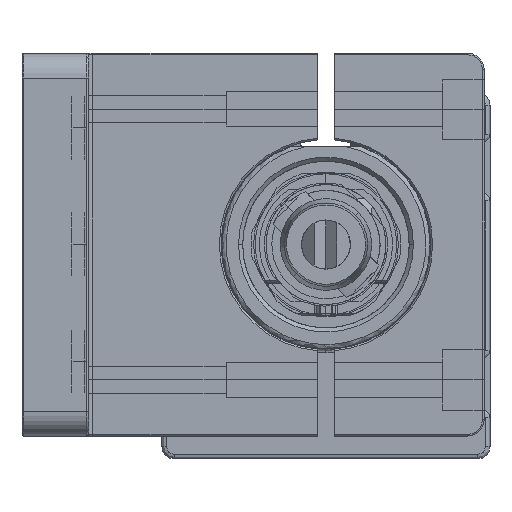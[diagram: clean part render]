
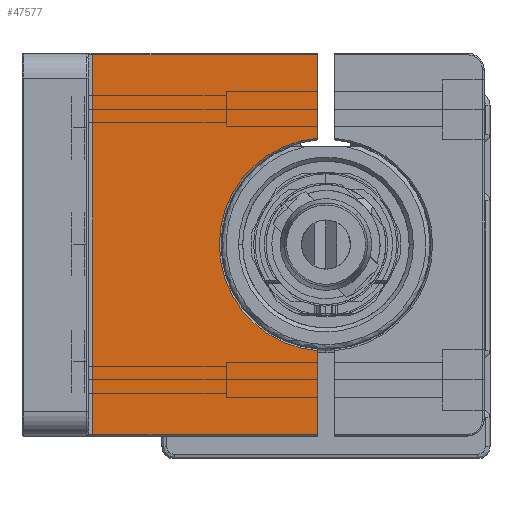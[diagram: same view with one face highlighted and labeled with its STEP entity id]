
A CAD part, front view. The second image highlights one B-rep face of the part: STEP entity #47577.
In plain terms, the highlighted planar face has unit normal (0, -1, 0) as drawn and (0, 0, 1) by its records, which use the part's own axes.
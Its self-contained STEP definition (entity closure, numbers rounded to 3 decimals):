
#1406 = CARTESIAN_POINT ( 'NONE',  ( 35.761, 34., 8. ) ) ;
#4065 = DIRECTION ( 'NONE',  ( 1., 0., 0. ) ) ;
#5437 = ORIENTED_EDGE ( 'NONE', *, *, #32238, .T. ) ;
#6256 = EDGE_CURVE ( 'NONE', #7304, #44194, #48827, .T. ) ;
#7304 = VERTEX_POINT ( 'NONE', #51587 ) ;
#7699 = CARTESIAN_POINT ( 'NONE',  ( 45.8, 34., 8. ) ) ;
#8242 = AXIS2_PLACEMENT_3D ( 'NONE', #47740, #30300, #51110 ) ;
#8947 = EDGE_CURVE ( 'NONE', #20039, #32472, #54614, .T. ) ;
#10816 = AXIS2_PLACEMENT_3D ( 'NONE', #35023, #26341, #26086 ) ;
#11124 = ORIENTED_EDGE ( 'NONE', *, *, #8947, .F. ) ;
#12117 = CARTESIAN_POINT ( 'NONE',  ( 45.8, 34., 8. ) ) ;
#12450 = CARTESIAN_POINT ( 'NONE',  ( 0., 7., 8. ) ) ;
#13073 = PLANE ( 'NONE',  #8242 ) ;
#14718 = VECTOR ( 'NONE', #16621, 1000. ) ;
#16621 = DIRECTION ( 'NONE',  ( 1., 0., 0. ) ) ;
#17120 = CARTESIAN_POINT ( 'NONE',  ( 45.8, 34., 8. ) ) ;
#18285 = VERTEX_POINT ( 'NONE', #36572 ) ;
#18725 = EDGE_CURVE ( 'NONE', #7304, #18285, #37560, .T. ) ;
#19600 = VECTOR ( 'NONE', #4065, 1000. ) ;
#20039 = VERTEX_POINT ( 'NONE', #1406 ) ;
#23382 = DIRECTION ( 'NONE',  ( 0., 1., 0. ) ) ;
#26086 = DIRECTION ( 'NONE',  ( 1., 0., 0. ) ) ;
#26341 = DIRECTION ( 'NONE',  ( 0., 0., -1. ) ) ;
#26384 = CARTESIAN_POINT ( 'NONE',  ( 0.2, 7., 8. ) ) ;
#26662 = VECTOR ( 'NONE', #23382, 1000. ) ;
#27300 = ORIENTED_EDGE ( 'NONE', *, *, #6256, .T. ) ;
#27808 = LINE ( 'NONE', #40453, #26662 ) ;
#30300 = DIRECTION ( 'NONE',  ( 0., 0., 1. ) ) ;
#30858 = VECTOR ( 'NONE', #52444, 1000. ) ;
#32238 = EDGE_CURVE ( 'NONE', #44194, #47983, #37878, .T. ) ;
#32472 = VERTEX_POINT ( 'NONE', #17120 ) ;
#33296 = DIRECTION ( 'NONE',  ( 1., 0., 0. ) ) ;
#34699 = ORIENTED_EDGE ( 'NONE', *, *, #18725, .F. ) ;
#35023 = CARTESIAN_POINT ( 'NONE',  ( 23., 35., 8. ) ) ;
#36572 = CARTESIAN_POINT ( 'NONE',  ( 10.239, 34., 8. ) ) ;
#37560 = LINE ( 'NONE', #7699, #19600 ) ;
#37732 = ORIENTED_EDGE ( 'NONE', *, *, #42489, .T. ) ;
#37878 = LINE ( 'NONE', #12450, #14718 ) ;
#40453 = CARTESIAN_POINT ( 'NONE',  ( 45.8, 34., 8. ) ) ;
#42489 = EDGE_CURVE ( 'NONE', #20039, #18285, #45689, .T. ) ;
#43245 = FACE_OUTER_BOUND ( 'NONE', #49752, .T. ) ;
#44194 = VERTEX_POINT ( 'NONE', #45621 ) ;
#44282 = CARTESIAN_POINT ( 'NONE',  ( 45.8, 7., 8. ) ) ;
#45097 = ORIENTED_EDGE ( 'NONE', *, *, #46305, .T. ) ;
#45115 = VECTOR ( 'NONE', #33296, 1000. ) ;
#45621 = CARTESIAN_POINT ( 'NONE',  ( 0.2, 7., 8. ) ) ;
#45689 = CIRCLE ( 'NONE', #10816, 12.8 ) ;
#46305 = EDGE_CURVE ( 'NONE', #47983, #32472, #27808, .T. ) ;
#47577 = ADVANCED_FACE ( 'NONE', ( #43245 ), #13073, .T. ) ;
#47740 = CARTESIAN_POINT ( 'NONE',  ( 0., 0., 8. ) ) ;
#47983 = VERTEX_POINT ( 'NONE', #44282 ) ;
#48827 = LINE ( 'NONE', #26384, #30858 ) ;
#49752 = EDGE_LOOP ( 'NONE', ( #34699, #27300, #5437, #45097, #11124, #37732 ) ) ;
#51110 = DIRECTION ( 'NONE',  ( 1., 0., 0. ) ) ;
#51587 = CARTESIAN_POINT ( 'NONE',  ( 0.2, 34., 8. ) ) ;
#52444 = DIRECTION ( 'NONE',  ( 0., -1., 0. ) ) ;
#54614 = LINE ( 'NONE', #12117, #45115 ) ;
